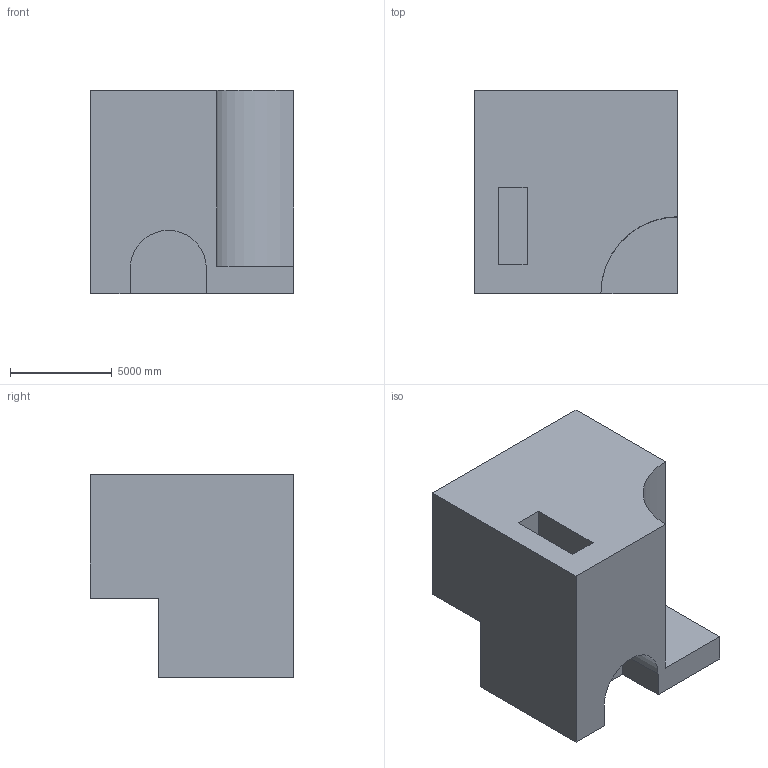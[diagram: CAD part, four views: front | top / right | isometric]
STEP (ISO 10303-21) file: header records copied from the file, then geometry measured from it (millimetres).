
FILE_DESCRIPTION (( 'STEP AP203' ), '1' );
FILE_NAME ('1358.STEP', '2022-08-18T14:01:46', ( 'user' ), ( '' ), 'SwSTEP 2.0', 'SolidWorks 2021', '' );
FILE_SCHEMA (( 'CONFIG_CONTROL_DESIGN' ));
Length unit declared in the file: centimetre
Products named in the file (1): 1358
Bounding box: 10000 x 10000 x 10000 mm (x, y, z)
Volume: 710361653427.2 mm3; surface area: 597168114 mm2
Topology: 1 solids, 1 shells, 19 faces, 48 edges, 32 vertices
Faces by surface type: plane 17, cylinder 2
Entity records: 643 total; most frequent: CARTESIAN_POINT 100, ORIENTED_EDGE 96, DIRECTION 92, EDGE_CURVE 48, VECTOR 44, LINE 44, VERTEX_POINT 32, AXIS2_PLACEMENT_3D 24
